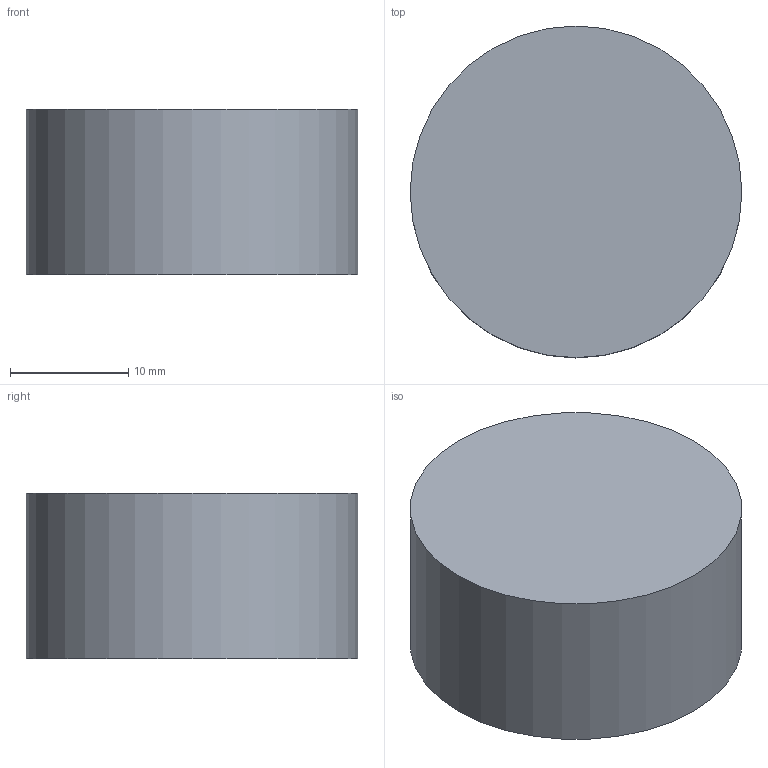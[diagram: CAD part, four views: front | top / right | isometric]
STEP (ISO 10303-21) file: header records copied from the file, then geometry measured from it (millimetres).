
FILE_DESCRIPTION(('Open CASCADE Model'),'2;1');
FILE_NAME('Open CASCADE Shape Model','2026-10-04T01:02:27',('Author'),( 'Open CASCADE'),'Open CASCADE STEP processor 8.0','Open CASCADE 8.0' ,'Unknown');
FILE_SCHEMA(('AUTOMOTIVE_DESIGN { 1 0 10303 214 1 1 1 1 }'));
Length unit declared in the file: millimetre
Products named in the file (1): Open CASCADE STEP translator 8.0 92
Bounding box: 28 x 28 x 14 mm (x, y, z)
Volume: 8620.5 mm3; surface area: 2463 mm2
Topology: 1 solids, 1 shells, 3 faces, 3 edges, 2 vertices
Faces by surface type: plane 2, cylinder 1
Full cylindrical faces by diameter (mm): 28 x1
Entity records: 108 total; most frequent: DIRECTION 19, CARTESIAN_POINT 15, AXIS2_PLACEMENT_3D 6, ORIENTED_EDGE 6, PCURVE 6, DEFINITIONAL_REPRESENTATION 6, LINE 5, VECTOR 5
